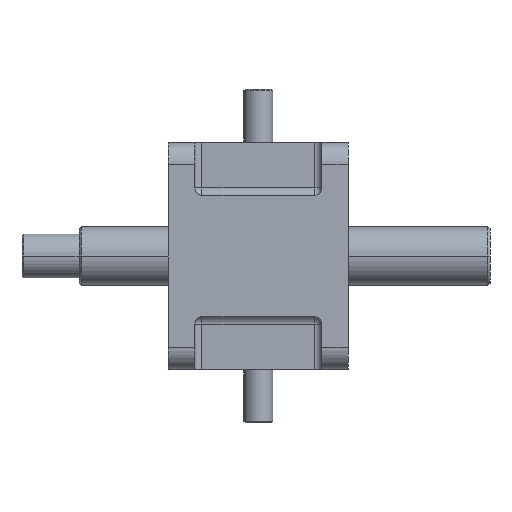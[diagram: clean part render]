
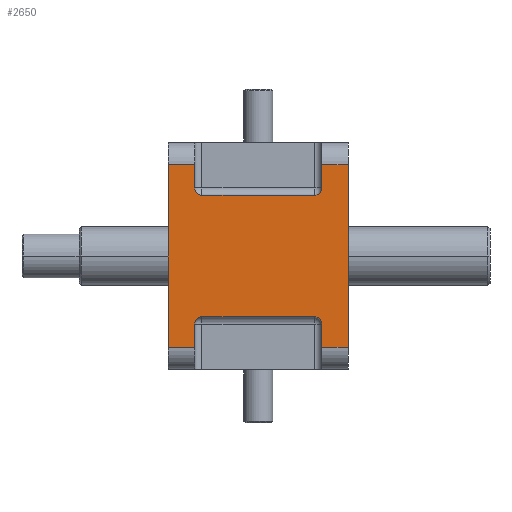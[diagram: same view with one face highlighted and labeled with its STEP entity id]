
A CAD part, left-side view. The second image highlights one B-rep face of the part: STEP entity #2650.
In plain terms, the highlighted planar face has unit normal (-1, 0, 0).
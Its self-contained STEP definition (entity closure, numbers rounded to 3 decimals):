
#2519 = VERTEX_POINT ( 'NONE', #4158 ) ;
#2571 = ORIENTED_EDGE ( 'NONE', *, *, #2658, .T. ) ;
#2592 = ORIENTED_EDGE ( 'NONE', *, *, #2677, .T. ) ;
#2609 = VERTEX_POINT ( 'NONE', #4343 ) ;
#2619 = EDGE_LOOP ( 'NONE', ( #2620, #2571, #2592, #2680, #2678, #2667, #2666, #2694, #2691, #2688, #2686, #2685, #2709, #2710, #2701, #2700 ) ) ;
#2620 = ORIENTED_EDGE ( 'NONE', *, *, #2621, .F. ) ;
#2621 = EDGE_CURVE ( 'NONE', #2519, #2609, #4382, .T. ) ;
#2650 = ADVANCED_FACE ( 'NONE', ( #4393 ), #4388, .F. ) ;
#2656 = VERTEX_POINT ( 'NONE', #4434 ) ;
#2658 = EDGE_CURVE ( 'NONE', #2519, #2656, #4427, .T. ) ;
#2666 = ORIENTED_EDGE ( 'NONE', *, *, #2674, .T. ) ;
#2667 = ORIENTED_EDGE ( 'NONE', *, *, #2669, .T. ) ;
#2668 = VERTEX_POINT ( 'NONE', #4413 ) ;
#2669 = EDGE_CURVE ( 'NONE', #2670, #2668, #4474, .T. ) ;
#2670 = VERTEX_POINT ( 'NONE', #4469 ) ;
#2671 = VERTEX_POINT ( 'NONE', #4468 ) ;
#2672 = VERTEX_POINT ( 'NONE', #4467 ) ;
#2674 = EDGE_CURVE ( 'NONE', #2668, #2672, #4466, .T. ) ;
#2675 = EDGE_CURVE ( 'NONE', #2670, #2679, #4462, .T. ) ;
#2676 = EDGE_CURVE ( 'NONE', #2679, #2681, #4458, .T. ) ;
#2677 = EDGE_CURVE ( 'NONE', #2656, #2681, #4454, .T. ) ;
#2678 = ORIENTED_EDGE ( 'NONE', *, *, #2675, .F. ) ;
#2679 = VERTEX_POINT ( 'NONE', #4450 ) ;
#2680 = ORIENTED_EDGE ( 'NONE', *, *, #2676, .F. ) ;
#2681 = VERTEX_POINT ( 'NONE', #4449 ) ;
#2682 = EDGE_CURVE ( 'NONE', #2683, #2671, #4448, .T. ) ;
#2683 = VERTEX_POINT ( 'NONE', #4444 ) ;
#2684 = EDGE_CURVE ( 'NONE', #2683, #2687, #4443, .T. ) ;
#2685 = ORIENTED_EDGE ( 'NONE', *, *, #2682, .T. ) ;
#2686 = ORIENTED_EDGE ( 'NONE', *, *, #2684, .F. ) ;
#2687 = VERTEX_POINT ( 'NONE', #4503 ) ;
#2688 = ORIENTED_EDGE ( 'NONE', *, *, #2689, .F. ) ;
#2689 = EDGE_CURVE ( 'NONE', #2687, #2692, #4502, .T. ) ;
#2690 = EDGE_CURVE ( 'NONE', #2695, #2692, #4498, .T. ) ;
#2691 = ORIENTED_EDGE ( 'NONE', *, *, #2690, .T. ) ;
#2692 = VERTEX_POINT ( 'NONE', #4494 ) ;
#2694 = ORIENTED_EDGE ( 'NONE', *, *, #2696, .T. ) ;
#2695 = VERTEX_POINT ( 'NONE', #4493 ) ;
#2696 = EDGE_CURVE ( 'NONE', #2672, #2695, #4492, .T. ) ;
#2698 = EDGE_CURVE ( 'NONE', #2702, #2609, #4487, .T. ) ;
#2700 = ORIENTED_EDGE ( 'NONE', *, *, #2698, .T. ) ;
#2701 = ORIENTED_EDGE ( 'NONE', *, *, #2703, .F. ) ;
#2702 = VERTEX_POINT ( 'NONE', #4480 ) ;
#2703 = EDGE_CURVE ( 'NONE', #2702, #2704, #4475, .T. ) ;
#2704 = VERTEX_POINT ( 'NONE', #4535 ) ;
#2705 = EDGE_CURVE ( 'NONE', #2708, #2704, #4534, .T. ) ;
#2706 = EDGE_CURVE ( 'NONE', #2671, #2708, #4529, .T. ) ;
#2708 = VERTEX_POINT ( 'NONE', #4525 ) ;
#2709 = ORIENTED_EDGE ( 'NONE', *, *, #2706, .T. ) ;
#2710 = ORIENTED_EDGE ( 'NONE', *, *, #2705, .T. ) ;
#4158 = CARTESIAN_POINT ( 'NONE',  ( -57.404, 18., -96.52 ) ) ;
#4343 = CARTESIAN_POINT ( 'NONE',  ( -57.404, 18., -80.52 ) ) ;
#4379 = DIRECTION ( 'NONE',  ( 0., 0., 1. ) ) ;
#4380 = VECTOR ( 'NONE', #4379, 1000. ) ;
#4381 = CARTESIAN_POINT ( 'NONE',  ( -57.404, 18., -111.52 ) ) ;
#4382 = LINE ( 'NONE', #4381, #4380 ) ;
#4383 = DIRECTION ( 'NONE',  ( 0., 0., -1. ) ) ;
#4384 = DIRECTION ( 'NONE',  ( 1., 0., 0. ) ) ;
#4385 = AXIS2_PLACEMENT_3D ( 'NONE', #4387, #4384, #4383 ) ;
#4387 = CARTESIAN_POINT ( 'NONE',  ( -57.404, 123., -96.52 ) ) ;
#4388 = PLANE ( 'NONE',  #4385 ) ;
#4393 = FACE_OUTER_BOUND ( 'NONE', #2619, .T. ) ;
#4413 = CARTESIAN_POINT ( 'NONE',  ( -57.404, 23., 7.48 ) ) ;
#4424 = DIRECTION ( 'NONE',  ( 0., -1., 0. ) ) ;
#4425 = VECTOR ( 'NONE', #4424, 1000. ) ;
#4426 = CARTESIAN_POINT ( 'NONE',  ( -57.404, 123., -96.52 ) ) ;
#4427 = LINE ( 'NONE', #4426, #4425 ) ;
#4434 = CARTESIAN_POINT ( 'NONE',  ( -57.404, 0., -96.52 ) ) ;
#4443 = LINE ( 'NONE', #4506, #4505 ) ;
#4444 = CARTESIAN_POINT ( 'NONE',  ( -57.404, 123., -96.52 ) ) ;
#4445 = DIRECTION ( 'NONE',  ( 0., -1., 0. ) ) ;
#4446 = VECTOR ( 'NONE', #4445, 1000. ) ;
#4447 = CARTESIAN_POINT ( 'NONE',  ( -57.404, 123., -96.52 ) ) ;
#4448 = LINE ( 'NONE', #4447, #4446 ) ;
#4449 = CARTESIAN_POINT ( 'NONE',  ( -57.404, 0., 28.48 ) ) ;
#4450 = CARTESIAN_POINT ( 'NONE',  ( -57.404, 18., 28.48 ) ) ;
#4451 = DIRECTION ( 'NONE',  ( 0., 0., 1. ) ) ;
#4452 = VECTOR ( 'NONE', #4451, 1000. ) ;
#4453 = CARTESIAN_POINT ( 'NONE',  ( -57.404, 0., -96.52 ) ) ;
#4454 = LINE ( 'NONE', #4453, #4452 ) ;
#4455 = DIRECTION ( 'NONE',  ( 0., -1., 0. ) ) ;
#4456 = VECTOR ( 'NONE', #4455, 1000. ) ;
#4457 = CARTESIAN_POINT ( 'NONE',  ( -57.404, 123., 28.48 ) ) ;
#4458 = LINE ( 'NONE', #4457, #4456 ) ;
#4459 = DIRECTION ( 'NONE',  ( 0., 0., 1. ) ) ;
#4460 = VECTOR ( 'NONE', #4459, 1000. ) ;
#4461 = CARTESIAN_POINT ( 'NONE',  ( -57.404, 18., 43.48 ) ) ;
#4462 = LINE ( 'NONE', #4461, #4460 ) ;
#4463 = DIRECTION ( 'NONE',  ( 0., 1., 0. ) ) ;
#4464 = VECTOR ( 'NONE', #4463, 1000. ) ;
#4465 = CARTESIAN_POINT ( 'NONE',  ( -57.404, 18., 7.48 ) ) ;
#4466 = LINE ( 'NONE', #4465, #4464 ) ;
#4467 = CARTESIAN_POINT ( 'NONE',  ( -57.404, 100., 7.48 ) ) ;
#4468 = CARTESIAN_POINT ( 'NONE',  ( -57.404, 105., -96.52 ) ) ;
#4469 = CARTESIAN_POINT ( 'NONE',  ( -57.404, 18., 12.48 ) ) ;
#4470 = DIRECTION ( 'NONE',  ( 0., 0., -1. ) ) ;
#4471 = DIRECTION ( 'NONE',  ( 1., 0., 0. ) ) ;
#4472 = CARTESIAN_POINT ( 'NONE',  ( -57.404, 23., 12.48 ) ) ;
#4473 = AXIS2_PLACEMENT_3D ( 'NONE', #4472, #4471, #4470 ) ;
#4474 = CIRCLE ( 'NONE', #4473, 5. ) ;
#4475 = LINE ( 'NONE', #4538, #4537 ) ;
#4480 = CARTESIAN_POINT ( 'NONE',  ( -57.404, 23., -75.52 ) ) ;
#4483 = DIRECTION ( 'NONE',  ( 0., 0., -1. ) ) ;
#4484 = DIRECTION ( 'NONE',  ( 1., 0., 0. ) ) ;
#4485 = CARTESIAN_POINT ( 'NONE',  ( -57.404, 23., -80.52 ) ) ;
#4486 = AXIS2_PLACEMENT_3D ( 'NONE', #4485, #4484, #4483 ) ;
#4487 = CIRCLE ( 'NONE', #4486, 5. ) ;
#4488 = DIRECTION ( 'NONE',  ( 0., 0., -1. ) ) ;
#4489 = DIRECTION ( 'NONE',  ( 1., 0., 0. ) ) ;
#4490 = CARTESIAN_POINT ( 'NONE',  ( -57.404, 100., 12.48 ) ) ;
#4491 = AXIS2_PLACEMENT_3D ( 'NONE', #4490, #4489, #4488 ) ;
#4492 = CIRCLE ( 'NONE', #4491, 5. ) ;
#4493 = CARTESIAN_POINT ( 'NONE',  ( -57.404, 105., 12.48 ) ) ;
#4494 = CARTESIAN_POINT ( 'NONE',  ( -57.404, 105., 28.48 ) ) ;
#4495 = DIRECTION ( 'NONE',  ( 0., 0., 1. ) ) ;
#4496 = VECTOR ( 'NONE', #4495, 1000. ) ;
#4497 = CARTESIAN_POINT ( 'NONE',  ( -57.404, 105., 43.48 ) ) ;
#4498 = LINE ( 'NONE', #4497, #4496 ) ;
#4499 = DIRECTION ( 'NONE',  ( 0., -1., 0. ) ) ;
#4500 = VECTOR ( 'NONE', #4499, 1000. ) ;
#4501 = CARTESIAN_POINT ( 'NONE',  ( -57.404, 123., 28.48 ) ) ;
#4502 = LINE ( 'NONE', #4501, #4500 ) ;
#4503 = CARTESIAN_POINT ( 'NONE',  ( -57.404, 123., 28.48 ) ) ;
#4504 = DIRECTION ( 'NONE',  ( 0., 0., 1. ) ) ;
#4505 = VECTOR ( 'NONE', #4504, 1000. ) ;
#4506 = CARTESIAN_POINT ( 'NONE',  ( -57.404, 123., -96.52 ) ) ;
#4525 = CARTESIAN_POINT ( 'NONE',  ( -57.404, 105., -80.52 ) ) ;
#4526 = DIRECTION ( 'NONE',  ( 0., 0., 1. ) ) ;
#4527 = VECTOR ( 'NONE', #4526, 1000. ) ;
#4528 = CARTESIAN_POINT ( 'NONE',  ( -57.404, 105., -111.52 ) ) ;
#4529 = LINE ( 'NONE', #4528, #4527 ) ;
#4530 = DIRECTION ( 'NONE',  ( 0., 0., -1. ) ) ;
#4531 = DIRECTION ( 'NONE',  ( 1., 0., 0. ) ) ;
#4532 = CARTESIAN_POINT ( 'NONE',  ( -57.404, 100., -80.52 ) ) ;
#4533 = AXIS2_PLACEMENT_3D ( 'NONE', #4532, #4531, #4530 ) ;
#4534 = CIRCLE ( 'NONE', #4533, 5. ) ;
#4535 = CARTESIAN_POINT ( 'NONE',  ( -57.404, 100., -75.52 ) ) ;
#4536 = DIRECTION ( 'NONE',  ( 0., 1., 0. ) ) ;
#4537 = VECTOR ( 'NONE', #4536, 1000. ) ;
#4538 = CARTESIAN_POINT ( 'NONE',  ( -57.404, 18., -75.52 ) ) ;
